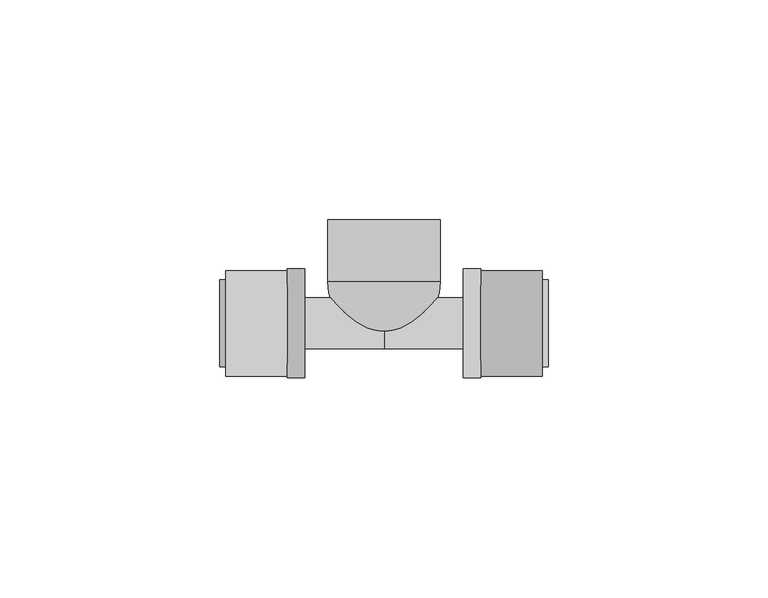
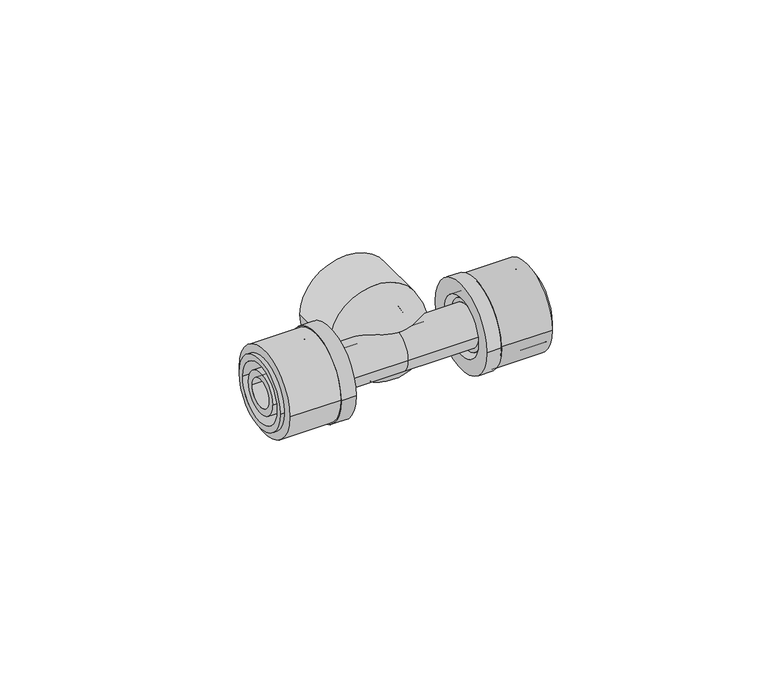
"""IFC4 building model written with IfcOpenShell, lengths in millimetres: pipe fitting geometry, FASTLOC_T-piece internal thread LX : FSL T thread LX CZ."""

import ifcopenshell
import ifcopenshell.guid

model = None  # the IFC model being written
_history = None  # IfcOwnerHistory: only IFC2X3 demands one
_inside = {}  # id of a spatial element -> (the spatial element, [elements in it])
_under = {}  # id of a project, library or spatial element -> (it, [spatial elements below it])
_declared = {}  # id of a project -> (the project, [libraries it declares])
_typed = {}  # id of a type object -> (the type object, [elements of that type])
_made_of = {}  # id of a material, layer set ... -> (it, [elements and type objects made of it])


def new_model(schema):
    """Start an empty IFC model of exactly this schema.

    Asked for "IFC4X3", IfcOpenShell would pick the latest addendum, in which some entities
    have other attributes; the version numbers below select the first issue.
    IFC2X3 requires an IfcOwnerHistory on every rooted entity: one is made here for all.
    """
    global model, _history
    if schema == "IFC4X3":
        model = ifcopenshell.file(schema_version=(4, 3, 0, 0))
    else:
        model = ifcopenshell.file(schema=schema)
    _inside.clear()
    _under.clear()
    _declared.clear()
    _typed.clear()
    _made_of.clear()
    _history = None
    if model.schema == "IFC2X3":
        org = make("IfcOrganization", Name="unknown")
        user = make(
            "IfcPersonAndOrganization",
            ThePerson=make("IfcPerson", FamilyName="unknown"),
            TheOrganization=org,
        )
        app = make(
            "IfcApplication",
            ApplicationDeveloper=org,
            Version="unknown",
            ApplicationFullName="unknown",
            ApplicationIdentifier="unknown",
        )
        _history = make(
            "IfcOwnerHistory",
            OwningUser=user,
            OwningApplication=app,
            ChangeAction="ADDED",
            CreationDate=0,
        )
    return model


def make(cls, **values):
    """One entity of the class cls with the attributes given. An attribute that is None is left unset."""
    return model.create_entity(
        cls, **{name: value for name, value in values.items() if value is not None}
    )


def rooted(cls, **values):
    """An entity with a GlobalId (a new one), such as an element, a storey or a relation."""
    return make(cls, GlobalId=ifcopenshell.guid.new(), OwnerHistory=_history, **values)


def si_unit(unit_type, name, prefix=None):
    """IfcSIUnit, for example si_unit("LENGTHUNIT", "METRE", prefix="MILLI")."""
    return make("IfcSIUnit", UnitType=unit_type, Prefix=prefix, Name=name)


def assignment(units):
    """IfcUnitAssignment: the units of a project."""
    return None if units is None else make("IfcUnitAssignment", Units=units)


def point(xyz):
    """IfcCartesianPoint."""
    return None if xyz is None else make("IfcCartesianPoint", Coordinates=xyz)


def direction(xyz):
    """IfcDirection."""
    return None if xyz is None else make("IfcDirection", DirectionRatios=xyz)


def frame(location, z_axis=None, x_axis=None):
    """IfcAxis2Placement3D, a coordinate frame: its origin and axes. An axis left out is left unset."""
    return make(
        "IfcAxis2Placement3D",
        Location=point(location),
        Axis=direction(z_axis),
        RefDirection=direction(x_axis),
    )


def frame_2d(location, x_axis=None):
    """IfcAxis2Placement2D, a coordinate frame in the plane: its origin and x axis."""
    return make(
        "IfcAxis2Placement2D", Location=point(location), RefDirection=direction(x_axis)
    )


def origin():
    """The frame at (0, 0, 0) with its axes left unset."""
    return frame((0.0, 0.0, 0.0))


def origin_2d():
    """The frame at (0, 0) in the plane with its x axis left unset."""
    return frame_2d((0.0, 0.0))


def place(relative_to, where):
    """IfcLocalPlacement: puts the frame where relative to a parent placement (None: the world)."""
    return make(
        "IfcLocalPlacement", PlacementRelTo=relative_to, RelativePlacement=where
    )


def context(
    kind, dimensions, precision=None, world=None, true_north=None, identifier=None
):
    """IfcGeometricRepresentationContext, for example the 3D "Model" context."""
    return make(
        "IfcGeometricRepresentationContext",
        ContextIdentifier=identifier,
        ContextType=kind,
        CoordinateSpaceDimension=dimensions,
        Precision=precision,
        WorldCoordinateSystem=world,
        TrueNorth=true_north,
    )


def project(units=None, contexts=None):
    """IfcProject with its units and contexts."""
    return rooted(
        "IfcProject",
        Name="project",
        RepresentationContexts=contexts,
        UnitsInContext=assignment(units),
    )


def spatial(cls, under=None, at=None, **own):
    """A site, building, storey or space (cls), placed at a placement, below another one or the project."""
    s = rooted(cls, ObjectPlacement=at, **own)
    if under is not None:
        _under.setdefault(under.id(), (under, []))[1].append(s)
    return s


def polyline(points):
    """IfcPolyline through the points."""
    return make("IfcPolyline", Points=[point(p) for p in points])


def circle_curve(where, radius):
    """IfcCircle in the frame where."""
    return make("IfcCircle", Position=where, Radius=radius)


def ellipse_curve(where, semi_axis1, semi_axis2):
    """IfcEllipse in the frame where."""
    return make(
        "IfcEllipse", Position=where, SemiAxis1=semi_axis1, SemiAxis2=semi_axis2
    )


def trimmed(basis, trim1, trim2, sense, master):
    """IfcTrimmedCurve: the piece of a basis curve between two trims."""
    return make(
        "IfcTrimmedCurve",
        BasisCurve=basis,
        Trim1=trim1,
        Trim2=trim2,
        SenseAgreement=sense,
        MasterRepresentation=master,
    )


def segment(curve, same_sense, transition):
    """IfcCompositeCurveSegment."""
    return make(
        "IfcCompositeCurveSegment",
        Transition=transition,
        SameSense=same_sense,
        ParentCurve=curve,
    )


def composite_curve(segments, self_intersect=None):
    """IfcCompositeCurve: segments joined end to end."""
    return make("IfcCompositeCurve", Segments=segments, SelfIntersect=self_intersect)


def outline(outer, holes=None, kind="AREA"):
    """IfcArbitraryClosedProfileDef: a profile drawn as a closed curve; with holes, ...WithVoids."""
    if holes is None:
        return make("IfcArbitraryClosedProfileDef", ProfileType=kind, OuterCurve=outer)
    return make(
        "IfcArbitraryProfileDefWithVoids",
        ProfileType=kind,
        OuterCurve=outer,
        InnerCurves=holes,
    )


def extrude(swept, where, along, depth):
    """IfcExtrudedAreaSolid: the profile swept, set in the frame where, extruded along a direction by depth."""
    return make(
        "IfcExtrudedAreaSolid",
        SweptArea=swept,
        Position=where,
        ExtrudedDirection=direction(along),
        Depth=depth,
    )


def shape(context_of_items, identifier, shape_type, items):
    """IfcShapeRepresentation: the items that make up one representation, for example the "Body"."""
    return make(
        "IfcShapeRepresentation",
        ContextOfItems=context_of_items,
        RepresentationIdentifier=identifier,
        RepresentationType=shape_type,
        Items=items,
    )


def source(mapping_origin, context_of_items, identifier, shape_type, items):
    """IfcRepresentationMap: a shape defined once, which mapped items show again and again."""
    return make(
        "IfcRepresentationMap",
        MappingOrigin=mapping_origin,
        MappedRepresentation=shape(context_of_items, identifier, shape_type, items),
    )


def transform(
    local_origin,
    x_axis=None,
    y_axis=None,
    z_axis=None,
    scale=None,
    scale2=None,
    scale3=None,
    uniform=True,
):
    """IfcCartesianTransformationOperator3D, or its non-uniform kind. x_axis, y_axis, z_axis: its Axis1, 2, 3."""
    if uniform:
        return make(
            "IfcCartesianTransformationOperator3D",
            Axis1=direction(x_axis),
            Axis2=direction(y_axis),
            LocalOrigin=point(local_origin),
            Scale=scale,
            Axis3=direction(z_axis),
        )
    return make(
        "IfcCartesianTransformationOperator3DnonUniform",
        Axis1=direction(x_axis),
        Axis2=direction(y_axis),
        LocalOrigin=point(local_origin),
        Scale=scale,
        Axis3=direction(z_axis),
        Scale2=scale2,
        Scale3=scale3,
    )


def mapped(mapping_source, mapping_target):
    """IfcMappedItem: shows the shape of a source again, moved by a transform."""
    return make(
        "IfcMappedItem", MappingSource=mapping_source, MappingTarget=mapping_target
    )


def made_of(thing, what):
    """Note that an element or type object is made of a material, layer set ...; save() writes the relation."""
    if what is not None:
        _made_of.setdefault(what.id(), (what, []))[1].append(thing)
    return thing


def element(
    cls,
    number,
    at=None,
    inside=None,
    cuts=None,
    type_object=None,
    material=None,
    context=None,
    identifier="Body",
    shape_type=None,
    held_by="IfcProductDefinitionShape",
    body=None,
    shapes=None,
    **own,
):
    """One element of the class cls, such as IfcWall. Its Tag is "e" and its number.

    at: its placement. inside: the storey or other place that contains it. cuts: it is an
    opening in that element (IfcRelVoidsElement). A single representation is given by context,
    identifier, shape_type and body (its items); several are given by shapes. held_by: the class
    of the entity that holds the representations. save() writes the other relations.
    """
    e = rooted(cls, Tag="e%d" % number, ObjectPlacement=at, **own)
    if body is not None:
        shapes = [shape(context, identifier, shape_type, body)]
    if shapes is not None:
        e.Representation = make(held_by, Representations=shapes)
    if inside is not None:
        _inside.setdefault(inside.id(), (inside, []))[1].append(e)
    if cuts is not None:
        rooted(
            "IfcRelVoidsElement", RelatingBuildingElement=cuts, RelatedOpeningElement=e
        )
    if type_object is not None:
        _typed.setdefault(type_object.id(), (type_object, []))[1].append(e)
    return made_of(e, material)


def aggregate(whole, parts):
    """IfcRelAggregates: a whole, such as a stair, and the parts it consists of."""
    return rooted("IfcRelAggregates", RelatingObject=whole, RelatedObjects=parts)


def save(model, path):
    """Write the relations noted so far, then the file.

    IfcRelAggregates (storeys below a building ...), IfcRelContainedInSpatialStructure (elements
    in a storey), IfcRelDefinesByType, IfcRelAssociatesMaterial and IfcRelDeclares: one each for
    every whole, place, type object, material and project.
    """
    for whole, parts in _under.values():
        aggregate(whole, parts)
    for where, things in _inside.values():
        rooted(
            "IfcRelContainedInSpatialStructure",
            RelatedElements=things,
            RelatingStructure=where,
        )
    for kind, things in _typed.values():
        rooted("IfcRelDefinesByType", RelatedObjects=things, RelatingType=kind)
    for what, things in _made_of.values():
        rooted("IfcRelAssociatesMaterial", RelatedObjects=things, RelatingMaterial=what)
    for by, libraries in _declared.values():
        rooted("IfcRelDeclares", RelatingContext=by, RelatedDefinitions=libraries)
    model.write(path)


def plane_surface(at):
    """IfcPlane: the flat surface through the origin of the frame at, square to its z axis."""
    return make("IfcPlane", Position=at)


def cylinder_surface(at, radius):
    """IfcCylindricalSurface: all points at the distance radius from the z axis of the frame at."""
    return make("IfcCylindricalSurface", Position=at, Radius=radius)


def revolved_surface(curve, axis_point, axis_direction):
    """IfcSurfaceOfRevolution: the curve turned about the line through axis_point along axis_direction."""
    return make(
        "IfcSurfaceOfRevolution",
        SweptCurve=make("IfcArbitraryOpenProfileDef", ProfileType="CURVE", Curve=curve),
        AxisPosition=make("IfcAxis1Placement", Location=point(axis_point), Axis=direction(axis_direction)),
    )


def advanced_brep(points, edges, surfaces, faces):
    """IfcAdvancedBrep: a solid bounded by faces that lie on surfaces and meet in shared edges.

    An edge is (start, end): straight between two places in points (the first is 0);
    or (start, end, curve); or (start, end, curve, False) where it runs against its curve.
    A face is (place in surfaces, loops), or (place, loops, False) where it looks against
    its surface's normal. A loop lists edges by number (the first is 1), with a minus sign
    where the edge is run from its end to its start. The first loop is the outer one.
    """
    corners = [point(p) for p in points]
    vertices = [make("IfcVertexPoint", VertexGeometry=c) for c in corners]
    made = []
    for start, end, *more in edges:
        made.append(
            make(
                "IfcEdgeCurve",
                EdgeStart=vertices[start],
                EdgeEnd=vertices[end],
                EdgeGeometry=more[0] if more else make("IfcPolyline", Points=[corners[start], corners[end]]),
                SameSense=more[1] if len(more) > 1 else True,
            )
        )
    hull = []
    for where, loops, *sense in faces:
        bounds = []
        for j, loop in enumerate(loops):
            ring = [make("IfcOrientedEdge", EdgeElement=made[abs(k) - 1], Orientation=k > 0) for k in loop]
            bounds.append(
                make(
                    "IfcFaceOuterBound" if j == 0 else "IfcFaceBound",
                    Bound=make("IfcEdgeLoop", EdgeList=ring),
                    Orientation=True,
                )
            )
        hull.append(make("IfcAdvancedFace", Bounds=bounds, FaceSurface=surfaces[where], SameSense=sense[0] if sense else True))
    return make("IfcAdvancedBrep", Outer=make("IfcClosedShell", CfsFaces=hull))


def pipe_fitting_d92d4423(model_context):
    return source(origin(), model_context, "Body", "SolidModel", [
        extrude(outline(composite_curve([segment(trimmed(circle_curve(origin_2d(), 12.0), [point((-12.0, 0.0))], [point((12.0, 0.0))], False, "CARTESIAN"), True, "CONTINUOUS"), segment(trimmed(circle_curve(origin_2d(), 12.0), [point((12.0, 0.0))], [point((-12.0, 0.0))], False, "CARTESIAN"), True, "CONTINUOUS")], self_intersect=False), holes=[composite_curve([segment(trimmed(circle_curve(origin_2d(), 8.85), [point((-8.85, 0.0))], [point((8.85, 0.0))], True, "CARTESIAN"), True, "CONTINUOUS"), segment(trimmed(circle_curve(origin_2d(), 8.85), [point((8.85, 0.0))], [point((-8.85, 0.0))], True, "CARTESIAN"), True, "CONTINUOUS")], self_intersect=False)]), frame((22.0, 0.0, 0.0), z_axis=(1.0, 0.0, 0.0), x_axis=(0.0, 1.0, 0.0)), (0.0, 0.0, 1.0), 14.0),
        advanced_brep(
        [(22.0, 12.35, 0.0), (22.0, -12.35, 0.0), (18.0, -12.35, 0.0), (18.0, 12.35, 0.0), (37.3, 9.85, 0.0), (37.3, -9.85, 0.0), (22.0, -9.85, 0.0), (22.0, 9.85, 0.0), (18.0, 8.15, 0.0), (18.0, -8.15, 0.0), (37.3, -8.15, 0.0), (37.3, 8.15, 0.0)],
        [
            (0, 1, circle_curve(frame((22.0, 0.0, 0.0), z_axis=(-1.0, 0.0, 0.0), x_axis=(0.0, -1.0, 0.0)), 12.35)),
            (1, 2),
            (2, 3, circle_curve(frame((18.0, 0.0, 0.0), z_axis=(1.0, 0.0, 0.0), x_axis=(0.0, -1.0, 0.0)), 12.35)),
            (3, 0),
            (4, 5, circle_curve(frame((37.3, 0.0, 0.0), z_axis=(-1.0, 0.0, 0.0), x_axis=(0.0, -1.0, 0.0)), 9.85)),
            (5, 6),
            (6, 7, circle_curve(frame((22.0, 0.0, 0.0), z_axis=(1.0, 0.0, 0.0), x_axis=(0.0, -1.0, 0.0)), 9.85)),
            (7, 4),
            (8, 9, circle_curve(frame((18.0, 0.0, 0.0), z_axis=(-1.0, 0.0, 0.0), x_axis=(0.0, -1.0, 0.0)), 8.15)),
            (9, 10),
            (10, 11, circle_curve(frame((37.3, 0.0, 0.0), z_axis=(1.0, 0.0, 0.0), x_axis=(0.0, -1.0, 0.0)), 8.15)),
            (11, 8),
            (1, 0, circle_curve(frame((22.0, 0.0, 0.0), z_axis=(-1.0, 0.0, 0.0), x_axis=(0.0, 1.0, 0.0)), 12.35)),
            (3, 2, circle_curve(frame((18.0, 0.0, 0.0), z_axis=(1.0, 0.0, 0.0), x_axis=(0.0, 1.0, 0.0)), 12.35)),
            (6, 7, circle_curve(frame((22.0, 0.0, 0.0), z_axis=(-1.0, 0.0, 0.0), x_axis=(0.0, 1.0, 0.0)), 9.85)),
            (5, 4, circle_curve(frame((37.3, 0.0, 0.0), z_axis=(-1.0, 0.0, 0.0), x_axis=(0.0, 1.0, 0.0)), 9.85)),
            (10, 11, circle_curve(frame((37.3, 0.0, 0.0), z_axis=(-1.0, 0.0, 0.0), x_axis=(0.0, 1.0, 0.0)), 8.15)),
            (9, 8, circle_curve(frame((18.0, 0.0, 0.0), z_axis=(-1.0, 0.0, 0.0), x_axis=(0.0, 1.0, 0.0)), 8.15)),
        ],
        [
            cylinder_surface(frame((18.0, 0.0, 0.0), z_axis=(1.0, 0.0, 0.0), x_axis=(0.0, -1.0, 0.0)), 12.35),
            cylinder_surface(frame((18.0, 0.0, 0.0), z_axis=(1.0, 0.0, 0.0), x_axis=(0.0, -1.0, 0.0)), 9.85),
            revolved_surface(polyline([(37.3, -8.15, 0.0), (18.0, -8.15, 0.0)]), (18.0, 0.0, 0.0), (1.0, 0.0, 0.0)),
            cylinder_surface(frame((18.0, 0.0, 0.0), z_axis=(1.0, 0.0, 0.0), x_axis=(0.0, 1.0, 0.0)), 12.35),
            plane_surface(frame((22.0, 0.0, 0.0), z_axis=(1.0, 0.0, 0.0), x_axis=(0.0, 1.0, 0.0))),
            cylinder_surface(frame((18.0, 0.0, 0.0), z_axis=(1.0, 0.0, 0.0), x_axis=(0.0, 1.0, 0.0)), 9.85),
            plane_surface(frame((37.3, 0.0, 0.0), z_axis=(1.0, 0.0, 0.0), x_axis=(0.0, 1.0, 0.0))),
            revolved_surface(polyline([(37.3, 8.15, 0.0), (18.0, 8.15, 0.0)]), (18.0, 0.0, 0.0), (1.0, 0.0, 0.0)),
            plane_surface(frame((18.0, 0.0, 0.0), z_axis=(-1.0, 0.0, 0.0), x_axis=(0.0, 1.0, 0.0))),
        ],
        [
            (0, [[1, 2, 3, 4]]),
            (1, [[5, 6, 7, 8]]),
            (2, [[9, 10, 11, 12]]),
            (3, [[13, -4, 14, -2]]),
            (4, [[-13, -1], [15, -7]]),
            (5, [[16, -8, -15, -6]]),
            (6, [[-16, -5], [17, -11]]),
            (7, [[18, -12, -17, -10]]),
            (8, [[-14, -3], [-18, -9]]),
        ],
    ),
        extrude(outline(composite_curve([segment(trimmed(circle_curve(origin_2d(), 12.0), [point((12.0, 0.0))], [point((-12.0, 0.0))], False, "CARTESIAN"), True, "CONTINUOUS"), segment(trimmed(circle_curve(origin_2d(), 12.0), [point((-12.0, 0.0))], [point((12.0, 0.0))], False, "CARTESIAN"), True, "CONTINUOUS")], self_intersect=False), holes=[composite_curve([segment(trimmed(circle_curve(origin_2d(), 8.85), [point((8.85, 0.0))], [point((-8.85, 0.0))], True, "CARTESIAN"), True, "CONTINUOUS"), segment(trimmed(circle_curve(origin_2d(), 8.85), [point((-8.85, 0.0))], [point((8.85, 0.0))], True, "CARTESIAN"), True, "CONTINUOUS")], self_intersect=False)]), frame((-36.0, 0.0, 0.0), z_axis=(1.0, 0.0, 0.0), x_axis=(0.0, 1.0, 0.0)), (0.0, 0.0, 1.0), 14.0),
        advanced_brep(
        [(-22.0, -12.35, 0.0), (-22.0, 12.35, 0.0), (-18.0, 12.35, 0.0), (-18.0, -12.35, 0.0), (-37.3, -9.85, 0.0), (-37.3, 9.85, 0.0), (-22.0, 9.85, 0.0), (-22.0, -9.85, 0.0), (-18.0, -8.15, 0.0), (-18.0, 8.15, 0.0), (-37.3, 8.15, 0.0), (-37.3, -8.15, 0.0)],
        [
            (0, 1, circle_curve(frame((-22.0, 0.0, 0.0), z_axis=(1.0, 0.0, 0.0), x_axis=(0.0, 1.0, 0.0)), 12.35)),
            (1, 2),
            (2, 3, circle_curve(frame((-18.0, 0.0, 0.0), z_axis=(-1.0, 0.0, 0.0), x_axis=(0.0, 1.0, 0.0)), 12.35)),
            (3, 0),
            (4, 5, circle_curve(frame((-37.3, 0.0, 0.0), z_axis=(1.0, 0.0, 0.0), x_axis=(0.0, 1.0, 0.0)), 9.85)),
            (5, 6),
            (6, 7, circle_curve(frame((-22.0, 0.0, 0.0), z_axis=(-1.0, 0.0, 0.0), x_axis=(0.0, 1.0, 0.0)), 9.85)),
            (7, 4),
            (8, 9, circle_curve(frame((-18.0, 0.0, 0.0), z_axis=(1.0, 0.0, 0.0), x_axis=(0.0, 1.0, 0.0)), 8.15)),
            (9, 10),
            (10, 11, circle_curve(frame((-37.3, 0.0, 0.0), z_axis=(-1.0, 0.0, 0.0), x_axis=(0.0, 1.0, 0.0)), 8.15)),
            (11, 8),
            (1, 0, circle_curve(frame((-22.0, 0.0, 0.0), z_axis=(1.0, 0.0, 0.0), x_axis=(0.0, -1.0, 0.0)), 12.35)),
            (3, 2, circle_curve(frame((-18.0, 0.0, 0.0), z_axis=(-1.0, 0.0, 0.0), x_axis=(0.0, -1.0, 0.0)), 12.35)),
            (6, 7, circle_curve(frame((-22.0, 0.0, 0.0), z_axis=(1.0, 0.0, 0.0), x_axis=(0.0, -1.0, 0.0)), 9.85)),
            (5, 4, circle_curve(frame((-37.3, 0.0, 0.0), z_axis=(1.0, 0.0, 0.0), x_axis=(0.0, -1.0, 0.0)), 9.85)),
            (10, 11, circle_curve(frame((-37.3, 0.0, 0.0), z_axis=(1.0, 0.0, 0.0), x_axis=(0.0, -1.0, 0.0)), 8.15)),
            (9, 8, circle_curve(frame((-18.0, 0.0, 0.0), z_axis=(1.0, 0.0, 0.0), x_axis=(0.0, -1.0, 0.0)), 8.15)),
        ],
        [
            cylinder_surface(frame((-18.0, 0.0, 0.0), z_axis=(-1.0, 0.0, 0.0), x_axis=(0.0, 1.0, 0.0)), 12.35),
            cylinder_surface(frame((-18.0, 0.0, 0.0), z_axis=(-1.0, 0.0, 0.0), x_axis=(0.0, 1.0, 0.0)), 9.85),
            revolved_surface(polyline([(-37.3, 8.15, 0.0), (-18.0, 8.15, 0.0)]), (-18.0, 0.0, 0.0), (-1.0, 0.0, 0.0)),
            cylinder_surface(frame((-18.0, 0.0, 0.0), z_axis=(-1.0, 0.0, 0.0), x_axis=(0.0, -1.0, 0.0)), 12.35),
            plane_surface(frame((-22.0, 0.0, 0.0), z_axis=(-1.0, 0.0, 0.0), x_axis=(0.0, -1.0, 0.0))),
            cylinder_surface(frame((-18.0, 0.0, 0.0), z_axis=(-1.0, 0.0, 0.0), x_axis=(0.0, -1.0, 0.0)), 9.85),
            plane_surface(frame((-37.3, 0.0, 0.0), z_axis=(-1.0, 0.0, 0.0), x_axis=(0.0, -1.0, 0.0))),
            revolved_surface(polyline([(-37.3, -8.15, 0.0), (-18.0, -8.15, 0.0)]), (-18.0, 0.0, 0.0), (-1.0, 0.0, 0.0)),
            plane_surface(frame((-18.0, 0.0, 0.0), z_axis=(1.0, 0.0, 0.0), x_axis=(0.0, -1.0, 0.0))),
        ],
        [
            (0, [[1, 2, 3, 4]]),
            (1, [[5, 6, 7, 8]]),
            (2, [[9, 10, 11, 12]]),
            (3, [[13, -4, 14, -2]]),
            (4, [[-13, -1], [15, -7]]),
            (5, [[16, -8, -15, -6]]),
            (6, [[-16, -5], [17, -11]]),
            (7, [[18, -12, -17, -10]]),
            (8, [[-14, -3], [-18, -9]]),
        ],
    ),
        advanced_brep(
        [(22.0, 6.9, 0.0), (22.0, -6.9, 0.0), (19.3, -6.9, 0.0), (19.3, 6.9, 0.0), (37.1, 5.8, 0.0), (37.1, -5.8, 0.0), (22.0, -5.8, 0.0), (22.0, 5.8, 0.0), (-37.1, 3.95, 0.0), (-37.1, -3.95, 0.0), (37.1, -3.95, 0.0), (37.1, 3.95, 0.0), (-22.0, 5.8, 0.0), (-22.0, -5.8, 0.0), (-37.1, -5.8, 0.0), (-37.1, 5.8, 0.0), (-19.3, 6.9, 0.0), (-19.3, -6.9, 0.0), (-22.0, -6.9, 0.0), (-22.0, 6.9, 0.0), (0.0, 5.8, 0.0), (0.0, -5.8, 0.0), (-19.3, -5.8, 0.0), (-19.3, 5.8, 0.0), (19.3, 5.8, 0.0), (19.3, -5.8, 0.0)],
        [
            (0, 1, circle_curve(frame((22.0, 0.0, 0.0), z_axis=(-1.0, 0.0, 0.0), x_axis=(0.0, -1.0, 0.0)), 6.9)),
            (1, 2),
            (2, 3, circle_curve(frame((19.3, 0.0, 0.0), z_axis=(1.0, 0.0, 0.0), x_axis=(0.0, -1.0, 0.0)), 6.9)),
            (3, 0),
            (4, 5, circle_curve(frame((37.1, 0.0, 0.0), z_axis=(-1.0, 0.0, 0.0), x_axis=(0.0, -1.0, 0.0)), 5.8)),
            (5, 6),
            (6, 7, circle_curve(frame((22.0, 0.0, 0.0), z_axis=(1.0, 0.0, 0.0), x_axis=(0.0, -1.0, 0.0)), 5.8)),
            (7, 4),
            (8, 9, circle_curve(frame((-37.1, 0.0, 0.0), z_axis=(-1.0, 0.0, 0.0), x_axis=(0.0, -1.0, 0.0)), 3.95)),
            (9, 10),
            (10, 11, circle_curve(frame((37.1, 0.0, 0.0), z_axis=(1.0, 0.0, 0.0), x_axis=(0.0, -1.0, 0.0)), 3.95)),
            (11, 8),
            (12, 13, circle_curve(frame((-22.0, 0.0, 0.0), z_axis=(-1.0, 0.0, 0.0), x_axis=(0.0, -1.0, 0.0)), 5.8)),
            (13, 14),
            (14, 15, circle_curve(frame((-37.1, 0.0, 0.0), z_axis=(1.0, 0.0, 0.0), x_axis=(0.0, -1.0, 0.0)), 5.8)),
            (15, 12),
            (16, 17, circle_curve(frame((-19.3, 0.0, 0.0), z_axis=(-1.0, 0.0, 0.0), x_axis=(0.0, -1.0, 0.0)), 6.9)),
            (17, 18),
            (18, 19, circle_curve(frame((-22.0, 0.0, 0.0), z_axis=(1.0, 0.0, 0.0), x_axis=(0.0, -1.0, 0.0)), 6.9)),
            (19, 16),
            (20, 21, circle_curve(frame((0.0, 0.0, 0.0), z_axis=(-1.0, 0.0, 0.0), x_axis=(0.0, -1.0, 0.0)), 5.8)),
            (21, 22),
            (22, 23, circle_curve(frame((-19.3, 0.0, 0.0), z_axis=(1.0, 0.0, 0.0), x_axis=(0.0, -1.0, 0.0)), 5.8)),
            (23, 20),
            (24, 25, circle_curve(frame((19.3, 0.0, 0.0), z_axis=(-1.0, 0.0, 0.0), x_axis=(0.0, -1.0, 0.0)), 5.8)),
            (25, 21),
            (20, 24),
            (1, 0, circle_curve(frame((22.0, 0.0, 0.0), z_axis=(-1.0, 0.0, 0.0), x_axis=(0.0, 1.0, 0.0)), 6.9)),
            (3, 2, circle_curve(frame((19.3, 0.0, 0.0), z_axis=(1.0, 0.0, 0.0), x_axis=(0.0, 1.0, 0.0)), 6.9)),
            (6, 7, circle_curve(frame((22.0, 0.0, 0.0), z_axis=(-1.0, 0.0, 0.0), x_axis=(0.0, 1.0, 0.0)), 5.8)),
            (5, 4, circle_curve(frame((37.1, 0.0, 0.0), z_axis=(-1.0, 0.0, 0.0), x_axis=(0.0, 1.0, 0.0)), 5.8)),
            (10, 11, circle_curve(frame((37.1, 0.0, 0.0), z_axis=(-1.0, 0.0, 0.0), x_axis=(0.0, 1.0, 0.0)), 3.95)),
            (9, 8, circle_curve(frame((-37.1, 0.0, 0.0), z_axis=(-1.0, 0.0, 0.0), x_axis=(0.0, 1.0, 0.0)), 3.95)),
            (14, 15, circle_curve(frame((-37.1, 0.0, 0.0), z_axis=(-1.0, 0.0, 0.0), x_axis=(0.0, 1.0, 0.0)), 5.8)),
            (13, 12, circle_curve(frame((-22.0, 0.0, 0.0), z_axis=(-1.0, 0.0, 0.0), x_axis=(0.0, 1.0, 0.0)), 5.8)),
            (18, 19, circle_curve(frame((-22.0, 0.0, 0.0), z_axis=(-1.0, 0.0, 0.0), x_axis=(0.0, 1.0, 0.0)), 6.9)),
            (17, 16, circle_curve(frame((-19.3, 0.0, 0.0), z_axis=(-1.0, 0.0, 0.0), x_axis=(0.0, 1.0, 0.0)), 6.9)),
            (22, 23, circle_curve(frame((-19.3, 0.0, 0.0), z_axis=(-1.0, 0.0, 0.0), x_axis=(0.0, 1.0, 0.0)), 5.8)),
            (21, 20, circle_curve(frame((0.0, 0.0, 0.0), z_axis=(-1.0, 0.0, 0.0), x_axis=(0.0, 1.0, 0.0)), 5.8)),
            (25, 24, circle_curve(frame((19.3, 0.0, 0.0), z_axis=(-1.0, 0.0, 0.0), x_axis=(0.0, 1.0, 0.0)), 5.8)),
        ],
        [
            cylinder_surface(frame((0.0, 0.0, 0.0), z_axis=(1.0, 0.0, 0.0), x_axis=(0.0, -1.0, 0.0)), 6.9),
            cylinder_surface(frame((0.0, 0.0, 0.0), z_axis=(1.0, 0.0, 0.0), x_axis=(0.0, -1.0, 0.0)), 5.8),
            revolved_surface(polyline([(37.1, -3.95, 0.0), (-37.1, -3.95, 0.0)]), (0.0, 0.0, 0.0), (1.0, 0.0, 0.0)),
            cylinder_surface(frame((0.0, 0.0, 0.0), z_axis=(1.0, 0.0, 0.0), x_axis=(0.0, 1.0, 0.0)), 6.9),
            plane_surface(frame((22.0, 0.0, 0.0), z_axis=(1.0, 0.0, 0.0), x_axis=(0.0, 1.0, 0.0))),
            cylinder_surface(frame((0.0, 0.0, 0.0), z_axis=(1.0, 0.0, 0.0), x_axis=(0.0, 1.0, 0.0)), 5.8),
            plane_surface(frame((37.1, 0.0, 0.0), z_axis=(1.0, 0.0, 0.0), x_axis=(0.0, 1.0, 0.0))),
            revolved_surface(polyline([(37.1, 3.95, 0.0), (-37.1, 3.95, 0.0)]), (0.0, 0.0, 0.0), (1.0, 0.0, 0.0)),
            plane_surface(frame((-37.1, 0.0, 0.0), z_axis=(-1.0, 0.0, 0.0), x_axis=(0.0, 1.0, 0.0))),
            plane_surface(frame((-22.0, 0.0, 0.0), z_axis=(-1.0, 0.0, 0.0), x_axis=(0.0, 1.0, 0.0))),
            plane_surface(frame((-19.3, 0.0, 0.0), z_axis=(1.0, 0.0, 0.0), x_axis=(0.0, 1.0, 0.0))),
            plane_surface(frame((19.3, 0.0, 0.0), z_axis=(-1.0, 0.0, 0.0), x_axis=(0.0, 1.0, 0.0))),
        ],
        [
            (0, [[1, 2, 3, 4]]),
            (1, [[5, 6, 7, 8]]),
            (2, [[9, 10, 11, 12]]),
            (1, [[13, 14, 15, 16]]),
            (0, [[17, 18, 19, 20]]),
            (1, [[21, 22, 23, 24]]),
            (1, [[25, 26, -21, 27]]),
            (3, [[28, -4, 29, -2]]),
            (4, [[-28, -1], [30, -7]]),
            (5, [[31, -8, -30, -6]]),
            (6, [[-31, -5], [32, -11]]),
            (7, [[33, -12, -32, -10]]),
            (8, [[34, -15], [-33, -9]]),
            (5, [[35, -16, -34, -14]]),
            (9, [[36, -19], [-35, -13]]),
            (3, [[37, -20, -36, -18]]),
            (10, [[-37, -17], [38, -23]]),
            (5, [[39, -24, -38, -22]]),
            (5, [[40, -27, -39, -26]]),
            (11, [[-29, -3], [-40, -25]]),
        ],
    ),
        advanced_brep(
        [(0.5, -3.3401923, 0.0), (-0.5, -3.3401923, 0.0), (-12.75, 9.4, 0.0), (12.75, 9.4, 0.0), (0.5, 1.9166852, 0.0), (-0.5, 1.9166852, 0.0), (7.5, 9.4, 0.0), (-7.5, 9.4, 0.0), (7.5, 23.5, 0.0), (-7.5, 23.5, 0.0), (-12.75, 23.5, 0.0), (12.75, 23.5, 0.0)],
        [
            (0, 1, circle_curve(frame((0.0, -3.3401923, 0.0), z_axis=(0.0, 1.0, 0.0), x_axis=(-1.0, 0.0, 0.0)), 0.5)),
            (1, 2, circle_curve(frame((0.0, 9.4, 0.0), z_axis=(0.0, 0.0, -1.0), x_axis=(0.0, 1.0, 0.0)), 12.75)),
            (2, 3, circle_curve(frame((0.0, 9.4, 0.0), z_axis=(0.0, -1.0, 0.0), x_axis=(-1.0, 0.0, 0.0)), 12.75)),
            (3, 0, circle_curve(frame((0.0, 9.4, 0.0), z_axis=(0.0, 0.0, -1.0), x_axis=(0.0, 1.0, 0.0)), 12.75)),
            (4, 5, circle_curve(frame((0.0, 1.9166852, 0.0), z_axis=(0.0, 1.0, 0.0), x_axis=(-1.0, 0.0, 0.0)), 0.5)),
            (5, 1),
            (0, 4),
            (6, 7, circle_curve(frame((0.0, 9.4, 0.0), z_axis=(0.0, 1.0, 0.0), x_axis=(-1.0, 0.0, 0.0)), 7.5)),
            (7, 5, circle_curve(frame((0.0, 9.4, 0.0), z_axis=(0.0, 0.0, 1.0), x_axis=(0.0, 1.0, 0.0)), 7.5)),
            (4, 6, circle_curve(frame((0.0, 9.4, 0.0), z_axis=(0.0, 0.0, 1.0), x_axis=(0.0, 1.0, 0.0)), 7.5)),
            (8, 9, circle_curve(frame((0.0, 23.5, 0.0), z_axis=(0.0, 1.0, 0.0), x_axis=(-1.0, 0.0, 0.0)), 7.5)),
            (9, 7),
            (6, 8),
            (2, 10),
            (10, 11, circle_curve(frame((0.0, 23.5, 0.0), z_axis=(0.0, -1.0, 0.0), x_axis=(-1.0, 0.0, 0.0)), 12.75)),
            (11, 3),
            (1, 0, circle_curve(frame((0.0, -3.3401923, 0.0), z_axis=(0.0, 1.0, 0.0), x_axis=(1.0, 0.0, 0.0)), 0.5)),
            (3, 2, circle_curve(frame((0.0, 9.4, 0.0), z_axis=(0.0, -1.0, 0.0), x_axis=(1.0, 0.0, 0.0)), 12.75)),
            (5, 4, circle_curve(frame((0.0, 1.9166852, 0.0), z_axis=(0.0, 1.0, 0.0), x_axis=(1.0, 0.0, 0.0)), 0.5)),
            (7, 6, circle_curve(frame((0.0, 9.4, 0.0), z_axis=(0.0, 1.0, 0.0), x_axis=(1.0, 0.0, 0.0)), 7.5)),
            (9, 8, circle_curve(frame((0.0, 23.5, 0.0), z_axis=(0.0, 1.0, 0.0), x_axis=(1.0, 0.0, 0.0)), 7.5)),
            (10, 11, circle_curve(frame((0.0, 23.5, 0.0), z_axis=(0.0, 1.0, 0.0), x_axis=(1.0, 0.0, 0.0)), 12.75)),
        ],
        [
            revolved_surface(trimmed(ellipse_curve(frame((0.0, 9.4, 0.0), z_axis=(0.0, 0.0, 1.0), x_axis=(0.0, 1.0, 0.0)), 12.75, 12.75), [point((-12.75, 9.4, 0.0))], [point((-0.5, -3.3401923, 0.0))], True, "CARTESIAN"), (0.0, 0.0, 0.0), (0.0, -1.0, 0.0)),
            revolved_surface(polyline([(-0.5, -3.3401923, 0.0), (-0.5, 1.9166852, 0.0)]), (0.0, 0.0, 0.0), (0.0, -1.0, 0.0)),
            revolved_surface(trimmed(ellipse_curve(frame((0.0, 9.4, 0.0), z_axis=(0.0, 0.0, -1.0), x_axis=(0.0, 1.0, 0.0)), 7.5, 7.5), [point((-0.5, 1.9166852, 0.0))], [point((-7.5, 9.4, 0.0))], True, "CARTESIAN"), (0.0, 0.0, 0.0), (0.0, -1.0, 0.0)),
            revolved_surface(polyline([(-7.5, 9.4, 0.0), (-7.5, 23.5, 0.0)]), (0.0, 0.0, 0.0), (0.0, -1.0, 0.0)),
            cylinder_surface(frame((0.0, 0.0, 0.0), z_axis=(0.0, -1.0, 0.0), x_axis=(-1.0, 0.0, 0.0)), 12.75),
            revolved_surface(trimmed(ellipse_curve(frame((0.0, 9.4, 0.0), z_axis=(0.0, 0.0, -1.0), x_axis=(0.0, 1.0, 0.0)), 12.75, 12.75), [point((12.75, 9.4, 0.0))], [point((0.5, -3.3401923, 0.0))], True, "CARTESIAN"), (0.0, 0.0, 0.0), (0.0, -1.0, 0.0)),
            revolved_surface(polyline([(0.5, -3.3401923, 0.0), (0.5, 1.9166852, 0.0)]), (0.0, 0.0, 0.0), (0.0, -1.0, 0.0)),
            revolved_surface(trimmed(ellipse_curve(frame((0.0, 9.4, 0.0), z_axis=(0.0, 0.0, 1.0), x_axis=(0.0, 1.0, 0.0)), 7.5, 7.5), [point((0.5, 1.9166852, 0.0))], [point((7.5, 9.4, 0.0))], True, "CARTESIAN"), (0.0, 0.0, 0.0), (0.0, -1.0, 0.0)),
            revolved_surface(polyline([(7.5, 9.4, 0.0), (7.5, 23.5, 0.0)]), (0.0, 0.0, 0.0), (0.0, -1.0, 0.0)),
            plane_surface(frame((0.0, 23.5, 0.0), z_axis=(0.0, 1.0, 0.0), x_axis=(1.0, 0.0, 0.0))),
            cylinder_surface(frame((0.0, 0.0, 0.0), z_axis=(0.0, -1.0, 0.0), x_axis=(1.0, 0.0, 0.0)), 12.75),
        ],
        [
            (0, [[1, 2, 3, 4]]),
            (1, [[5, 6, -1, 7]]),
            (2, [[8, 9, -5, 10]]),
            (3, [[11, 12, -8, 13]]),
            (4, [[-3, 14, 15, 16]]),
            (5, [[17, -4, 18, -2]]),
            (6, [[19, -7, -17, -6]]),
            (7, [[20, -10, -19, -9]]),
            (8, [[21, -13, -20, -12]]),
            (9, [[22, -15], [-21, -11]]),
            (10, [[-18, -16, -22, -14]]),
        ],
    ),
    ])


if __name__ == "__main__":
    model = new_model("IFC4")
    model_context = context("Model", 3, world=origin())
    ifc_project = project(units=[si_unit("LENGTHUNIT", "METRE", prefix="MILLI")], contexts=[model_context])
    site = spatial("IfcSite", under=ifc_project)
    building = spatial("IfcBuilding", under=site)
    placement = place(None, origin())
    pipe_fitting_shape = pipe_fitting_d92d4423(model_context)
    element("IfcPipeFitting", 1, ObjectType="FASTLOC_T-piece internal thread LX : FSL T thread LX CZ", at=placement, inside=building, context=model_context, shape_type="MappedRepresentation", body=[
        mapped(pipe_fitting_shape, transform((0.0, 0.0, 0.0), x_axis=(1.0, 0.0, 0.0), y_axis=(0.0, 1.0, 0.0), z_axis=(0.0, 0.0, 1.0))),
    ])
    save(model, "model.ifc")
